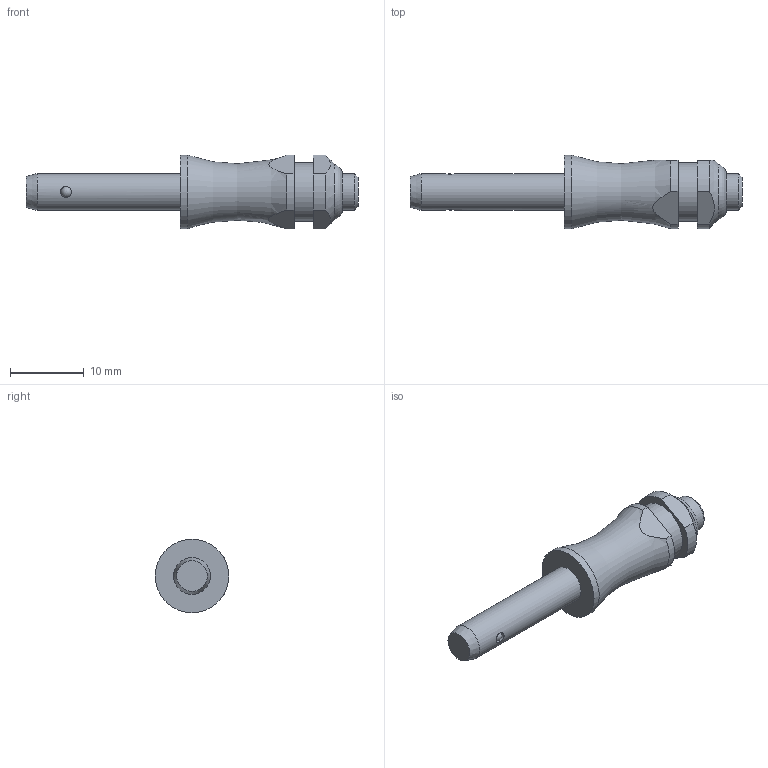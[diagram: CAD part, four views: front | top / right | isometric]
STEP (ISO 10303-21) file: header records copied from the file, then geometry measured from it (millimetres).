
FILE_DESCRIPTION( ( 'STEP AP203' ), '1' );
FILE_NAME( 'C:/Temp/Ganter_Step_05_03_2020/data/3_1/gn113_3/Stainless Steel-Ball lock pin GN 113.3-5-15 (activated).stp', '2020-03-12T08:18:08', ( 'License CC BY-ND 4.0' ), ( 'CADENAS' ), ' ', 'PARTsolutions', ' ' );
FILE_SCHEMA( ( 'CONFIG_CONTROL_DESIGN' ) );
Length unit declared in the file: millimetre
Products named in the file (1): _Stainless Steel-Ball lock pin GN 113.3-5-15 (activated)
Bounding box: 45.15 x 10 x 10 mm (x, y, z)
Volume: 1705.6 mm3; surface area: 1125.1 mm2
Topology: 1 solids, 1 shells, 31 faces, 73 edges, 46 vertices
Faces by surface type: plane 12, cylinder 12, cone 3, torus 2, sphere 2
Full cylindrical faces by diameter (mm): 1.5 x2, 5 x2, 7.9 x1, 10 x1
Entity records: 954 total; most frequent: CARTESIAN_POINT 290, DIRECTION 134, ORIENTED_EDGE 104, AXIS2_PLACEMENT_3D 58, EDGE_CURVE 52, EDGE_LOOP 48, VERTEX_POINT 40, FACE_OUTER_BOUND 39
